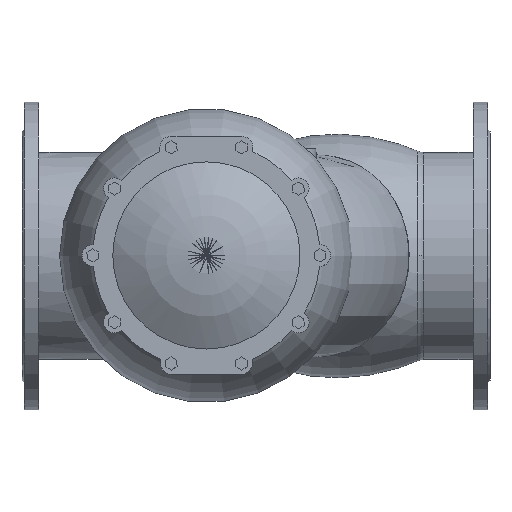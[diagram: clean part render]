
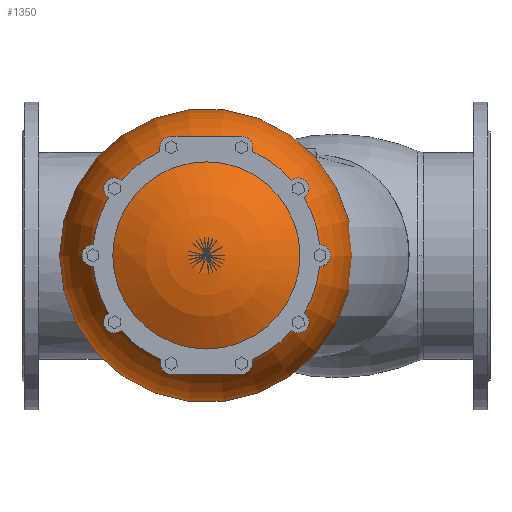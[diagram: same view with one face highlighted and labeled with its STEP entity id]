
A CAD part, top view. The second image highlights one B-rep face of the part: STEP entity #1350.
In plain terms, the highlighted toroidal (fillet/blend) face has major radius 10.063 mm and minor radius 230 mm.
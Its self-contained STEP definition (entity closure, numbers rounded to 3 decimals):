
#1350=ADVANCED_FACE('',(#3719),#3721,.T.);
#3719=FACE_OUTER_BOUND('',#3720,.T.);
#3720=EDGE_LOOP('',(#4713));
#3721=DEGENERATE_TOROIDAL_SURFACE('',#3722,10.063,230.,.T.);
#3722=AXIS2_PLACEMENT_3D('',#3723,#3724,#3725);
#3723=CARTESIAN_POINT('',(-325.196,0.,298.22));
#3724=DIRECTION('',(0.,0.,-1.));
#3725=DIRECTION('',(-1.,0.,0.));
#4713=ORIENTED_EDGE('',*,*,#5723,.T.);
#5723=EDGE_CURVE('',#6334,#6334,#6335,.F.);
#6334=VERTEX_POINT('',#8910);
#6335=CIRCLE('',#8911,140.);
#8910=CARTESIAN_POINT('',(-465.196,0.,488.));
#8911=AXIS2_PLACEMENT_3D('',#8912,#8913,#8914);
#8912=CARTESIAN_POINT('',(-325.196,0.,488.));
#8913=DIRECTION('',(-0.,-0.,-1.));
#8914=DIRECTION('',(-1.,0.,0.));
